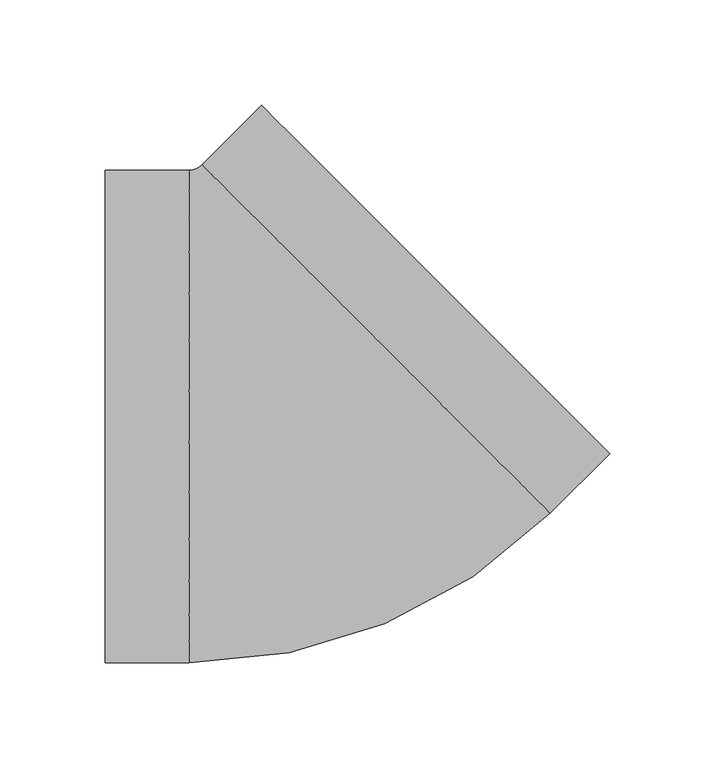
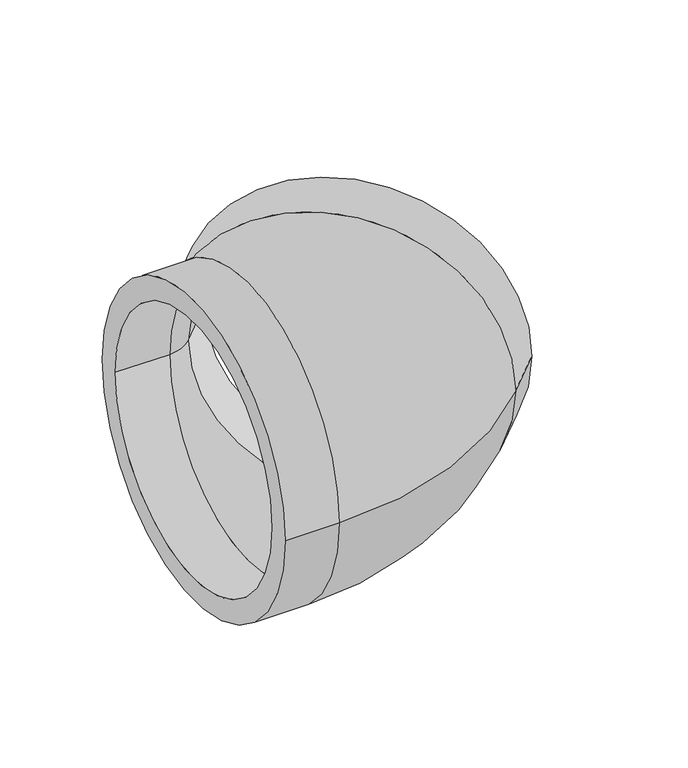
"""IFC4 building model written with IfcOpenShell, lengths in millimetres: duct fitting geometry, HEATPEX - ARIA ADURO - Kolano 45 : HEATPEX - ARIA ADURO - Kolano 45."""

import ifcopenshell
import ifcopenshell.guid

model = None  # the IFC model being written
_history = None  # IfcOwnerHistory: only IFC2X3 demands one
_inside = {}  # id of a spatial element -> (the spatial element, [elements in it])
_under = {}  # id of a project, library or spatial element -> (it, [spatial elements below it])
_declared = {}  # id of a project -> (the project, [libraries it declares])
_typed = {}  # id of a type object -> (the type object, [elements of that type])
_made_of = {}  # id of a material, layer set ... -> (it, [elements and type objects made of it])


def new_model(schema):
    """Start an empty IFC model of exactly this schema.

    Asked for "IFC4X3", IfcOpenShell would pick the latest addendum, in which some entities
    have other attributes; the version numbers below select the first issue.
    IFC2X3 requires an IfcOwnerHistory on every rooted entity: one is made here for all.
    """
    global model, _history
    if schema == "IFC4X3":
        model = ifcopenshell.file(schema_version=(4, 3, 0, 0))
    else:
        model = ifcopenshell.file(schema=schema)
    _inside.clear()
    _under.clear()
    _declared.clear()
    _typed.clear()
    _made_of.clear()
    _history = None
    if model.schema == "IFC2X3":
        org = make("IfcOrganization", Name="unknown")
        user = make(
            "IfcPersonAndOrganization",
            ThePerson=make("IfcPerson", FamilyName="unknown"),
            TheOrganization=org,
        )
        app = make(
            "IfcApplication",
            ApplicationDeveloper=org,
            Version="unknown",
            ApplicationFullName="unknown",
            ApplicationIdentifier="unknown",
        )
        _history = make(
            "IfcOwnerHistory",
            OwningUser=user,
            OwningApplication=app,
            ChangeAction="ADDED",
            CreationDate=0,
        )
    return model


def make(cls, **values):
    """One entity of the class cls with the attributes given. An attribute that is None is left unset."""
    return model.create_entity(
        cls, **{name: value for name, value in values.items() if value is not None}
    )


def rooted(cls, **values):
    """An entity with a GlobalId (a new one), such as an element, a storey or a relation."""
    return make(cls, GlobalId=ifcopenshell.guid.new(), OwnerHistory=_history, **values)


def si_unit(unit_type, name, prefix=None):
    """IfcSIUnit, for example si_unit("LENGTHUNIT", "METRE", prefix="MILLI")."""
    return make("IfcSIUnit", UnitType=unit_type, Prefix=prefix, Name=name)


def assignment(units):
    """IfcUnitAssignment: the units of a project."""
    return None if units is None else make("IfcUnitAssignment", Units=units)


def point(xyz):
    """IfcCartesianPoint."""
    return None if xyz is None else make("IfcCartesianPoint", Coordinates=xyz)


def direction(xyz):
    """IfcDirection."""
    return None if xyz is None else make("IfcDirection", DirectionRatios=xyz)


def frame(location, z_axis=None, x_axis=None):
    """IfcAxis2Placement3D, a coordinate frame: its origin and axes. An axis left out is left unset."""
    return make(
        "IfcAxis2Placement3D",
        Location=point(location),
        Axis=direction(z_axis),
        RefDirection=direction(x_axis),
    )


def origin():
    """The frame at (0, 0, 0) with its axes left unset."""
    return frame((0.0, 0.0, 0.0))


def place(relative_to, where):
    """IfcLocalPlacement: puts the frame where relative to a parent placement (None: the world)."""
    return make(
        "IfcLocalPlacement", PlacementRelTo=relative_to, RelativePlacement=where
    )


def context(
    kind, dimensions, precision=None, world=None, true_north=None, identifier=None
):
    """IfcGeometricRepresentationContext, for example the 3D "Model" context."""
    return make(
        "IfcGeometricRepresentationContext",
        ContextIdentifier=identifier,
        ContextType=kind,
        CoordinateSpaceDimension=dimensions,
        Precision=precision,
        WorldCoordinateSystem=world,
        TrueNorth=true_north,
    )


def project(units=None, contexts=None):
    """IfcProject with its units and contexts."""
    return rooted(
        "IfcProject",
        Name="project",
        RepresentationContexts=contexts,
        UnitsInContext=assignment(units),
    )


def spatial(cls, under=None, at=None, **own):
    """A site, building, storey or space (cls), placed at a placement, below another one or the project."""
    s = rooted(cls, ObjectPlacement=at, **own)
    if under is not None:
        _under.setdefault(under.id(), (under, []))[1].append(s)
    return s


def polyline(points):
    """IfcPolyline through the points."""
    return make("IfcPolyline", Points=[point(p) for p in points])


def circle_curve(where, radius):
    """IfcCircle in the frame where."""
    return make("IfcCircle", Position=where, Radius=radius)


def ellipse_curve(where, semi_axis1, semi_axis2):
    """IfcEllipse in the frame where."""
    return make(
        "IfcEllipse", Position=where, SemiAxis1=semi_axis1, SemiAxis2=semi_axis2
    )


def trimmed(basis, trim1, trim2, sense, master):
    """IfcTrimmedCurve: the piece of a basis curve between two trims."""
    return make(
        "IfcTrimmedCurve",
        BasisCurve=basis,
        Trim1=trim1,
        Trim2=trim2,
        SenseAgreement=sense,
        MasterRepresentation=master,
    )


def shape(context_of_items, identifier, shape_type, items):
    """IfcShapeRepresentation: the items that make up one representation, for example the "Body"."""
    return make(
        "IfcShapeRepresentation",
        ContextOfItems=context_of_items,
        RepresentationIdentifier=identifier,
        RepresentationType=shape_type,
        Items=items,
    )


def source(mapping_origin, context_of_items, identifier, shape_type, items):
    """IfcRepresentationMap: a shape defined once, which mapped items show again and again."""
    return make(
        "IfcRepresentationMap",
        MappingOrigin=mapping_origin,
        MappedRepresentation=shape(context_of_items, identifier, shape_type, items),
    )


def transform(
    local_origin,
    x_axis=None,
    y_axis=None,
    z_axis=None,
    scale=None,
    scale2=None,
    scale3=None,
    uniform=True,
):
    """IfcCartesianTransformationOperator3D, or its non-uniform kind. x_axis, y_axis, z_axis: its Axis1, 2, 3."""
    if uniform:
        return make(
            "IfcCartesianTransformationOperator3D",
            Axis1=direction(x_axis),
            Axis2=direction(y_axis),
            LocalOrigin=point(local_origin),
            Scale=scale,
            Axis3=direction(z_axis),
        )
    return make(
        "IfcCartesianTransformationOperator3DnonUniform",
        Axis1=direction(x_axis),
        Axis2=direction(y_axis),
        LocalOrigin=point(local_origin),
        Scale=scale,
        Axis3=direction(z_axis),
        Scale2=scale2,
        Scale3=scale3,
    )


def mapped(mapping_source, mapping_target):
    """IfcMappedItem: shows the shape of a source again, moved by a transform."""
    return make(
        "IfcMappedItem", MappingSource=mapping_source, MappingTarget=mapping_target
    )


def made_of(thing, what):
    """Note that an element or type object is made of a material, layer set ...; save() writes the relation."""
    if what is not None:
        _made_of.setdefault(what.id(), (what, []))[1].append(thing)
    return thing


def element(
    cls,
    number,
    at=None,
    inside=None,
    cuts=None,
    type_object=None,
    material=None,
    context=None,
    identifier="Body",
    shape_type=None,
    held_by="IfcProductDefinitionShape",
    body=None,
    shapes=None,
    **own,
):
    """One element of the class cls, such as IfcWall. Its Tag is "e" and its number.

    at: its placement. inside: the storey or other place that contains it. cuts: it is an
    opening in that element (IfcRelVoidsElement). A single representation is given by context,
    identifier, shape_type and body (its items); several are given by shapes. held_by: the class
    of the entity that holds the representations. save() writes the other relations.
    """
    e = rooted(cls, Tag="e%d" % number, ObjectPlacement=at, **own)
    if body is not None:
        shapes = [shape(context, identifier, shape_type, body)]
    if shapes is not None:
        e.Representation = make(held_by, Representations=shapes)
    if inside is not None:
        _inside.setdefault(inside.id(), (inside, []))[1].append(e)
    if cuts is not None:
        rooted(
            "IfcRelVoidsElement", RelatingBuildingElement=cuts, RelatedOpeningElement=e
        )
    if type_object is not None:
        _typed.setdefault(type_object.id(), (type_object, []))[1].append(e)
    return made_of(e, material)


def aggregate(whole, parts):
    """IfcRelAggregates: a whole, such as a stair, and the parts it consists of."""
    return rooted("IfcRelAggregates", RelatingObject=whole, RelatedObjects=parts)


def save(model, path):
    """Write the relations noted so far, then the file.

    IfcRelAggregates (storeys below a building ...), IfcRelContainedInSpatialStructure (elements
    in a storey), IfcRelDefinesByType, IfcRelAssociatesMaterial and IfcRelDeclares: one each for
    every whole, place, type object, material and project.
    """
    for whole, parts in _under.values():
        aggregate(whole, parts)
    for where, things in _inside.values():
        rooted(
            "IfcRelContainedInSpatialStructure",
            RelatedElements=things,
            RelatingStructure=where,
        )
    for kind, things in _typed.values():
        rooted("IfcRelDefinesByType", RelatedObjects=things, RelatingType=kind)
    for what, things in _made_of.values():
        rooted("IfcRelAssociatesMaterial", RelatedObjects=things, RelatingMaterial=what)
    for by, libraries in _declared.values():
        rooted("IfcRelDeclares", RelatingContext=by, RelatedDefinitions=libraries)
    model.write(path)


def plane_surface(at):
    """IfcPlane: the flat surface through the origin of the frame at, square to its z axis."""
    return make("IfcPlane", Position=at)


def cylinder_surface(at, radius):
    """IfcCylindricalSurface: all points at the distance radius from the z axis of the frame at."""
    return make("IfcCylindricalSurface", Position=at, Radius=radius)


def revolved_surface(curve, axis_point, axis_direction):
    """IfcSurfaceOfRevolution: the curve turned about the line through axis_point along axis_direction."""
    return make(
        "IfcSurfaceOfRevolution",
        SweptCurve=make("IfcArbitraryOpenProfileDef", ProfileType="CURVE", Curve=curve),
        AxisPosition=make("IfcAxis1Placement", Location=point(axis_point), Axis=direction(axis_direction)),
    )


def advanced_brep(points, edges, surfaces, faces):
    """IfcAdvancedBrep: a solid bounded by faces that lie on surfaces and meet in shared edges.

    An edge is (start, end): straight between two places in points (the first is 0);
    or (start, end, curve); or (start, end, curve, False) where it runs against its curve.
    A face is (place in surfaces, loops), or (place, loops, False) where it looks against
    its surface's normal. A loop lists edges by number (the first is 1), with a minus sign
    where the edge is run from its end to its start. The first loop is the outer one.
    """
    corners = [point(p) for p in points]
    vertices = [make("IfcVertexPoint", VertexGeometry=c) for c in corners]
    made = []
    for start, end, *more in edges:
        made.append(
            make(
                "IfcEdgeCurve",
                EdgeStart=vertices[start],
                EdgeEnd=vertices[end],
                EdgeGeometry=more[0] if more else make("IfcPolyline", Points=[corners[start], corners[end]]),
                SameSense=more[1] if len(more) > 1 else True,
            )
        )
    hull = []
    for where, loops, *sense in faces:
        bounds = []
        for j, loop in enumerate(loops):
            ring = [make("IfcOrientedEdge", EdgeElement=made[abs(k) - 1], Orientation=k > 0) for k in loop]
            bounds.append(
                make(
                    "IfcFaceOuterBound" if j == 0 else "IfcFaceBound",
                    Bound=make("IfcEdgeLoop", EdgeList=ring),
                    Orientation=True,
                )
            )
        hull.append(make("IfcAdvancedFace", Bounds=bounds, FaceSurface=surfaces[where], SameSense=sense[0] if sense else True))
    return make("IfcAdvancedBrep", Outer=make("IfcClosedShell", CfsFaces=hull))


def duct_fitting_def6fac4(model_context):
    return source(origin(), model_context, "Body", "AdvancedBrep", [
        advanced_brep(
        [(-92.0, -117.0, 0.0), (-92.0, 117.0, 0.0), (-92.0, -100.0, 0.0), (-92.0, 100.0, 0.0), (-52.0, -100.0, 0.0), (-52.0, 100.0, 0.0), (-52.0, -117.0, 0.0), (-52.0, 117.0, 0.0), (-33.9411255, 107.4802307, 0.0), (107.4802307, -33.9411255, 0.0), (36.7695526, 36.7695526, -100.0), (36.7695526, 36.7695526, 100.0), (-45.9619408, 119.501046, 0.0), (119.501046, -45.9619408, 0.0), (36.7695526, 36.7695526, 117.0), (36.7695526, 36.7695526, -117.0), (147.7853173, -17.6776695, 0.0), (-17.6776695, 147.7853173, 0.0), (135.764502, -5.6568542, 0.0), (-5.6568542, 135.764502, 0.0)],
        [
            (0, 1, circle_curve(frame((-92.0, 0.0, 0.0), z_axis=(-1.0, 0.0, 0.0), x_axis=(0.0, 1.0, 0.0)), 117.0)),
            (1, 0, circle_curve(frame((-92.0, 0.0, 0.0), z_axis=(-1.0, 0.0, 0.0), x_axis=(0.0, 1.0, 0.0)), 117.0)),
            (2, 3, circle_curve(frame((-92.0, 0.0, 0.0), z_axis=(1.0, 0.0, 0.0), x_axis=(0.0, 1.0, 0.0)), 100.0)),
            (3, 2, circle_curve(frame((-92.0, 0.0, 0.0), z_axis=(1.0, 0.0, 0.0), x_axis=(0.0, 1.0, 0.0)), 100.0)),
            (2, 4),
            (4, 5, circle_curve(frame((-52.0, 0.0, 0.0), z_axis=(1.0, 0.0, 0.0), x_axis=(0.0, 1.0, 0.0)), 100.0)),
            (5, 3),
            (5, 4, circle_curve(frame((-52.0, 0.0, 0.0), z_axis=(1.0, 0.0, 0.0), x_axis=(0.0, 1.0, 0.0)), 100.0)),
            (0, 6),
            (6, 7, circle_curve(frame((-52.0, 0.0, 0.0), z_axis=(-1.0, 0.0, 0.0), x_axis=(0.0, 1.0, 0.0)), 117.0)),
            (7, 1),
            (7, 6, circle_curve(frame((-52.0, 0.0, 0.0), z_axis=(-1.0, 0.0, 0.0), x_axis=(0.0, 1.0, 0.0)), 117.0)),
            (8, 5, circle_curve(frame((-52.0, 125.5391052, 0.0), z_axis=(0.0, 0.0, -1.0), x_axis=(0.0, -1.0, 0.0)), 25.5391052)),
            (4, 9, circle_curve(frame((-52.0, 125.5391052, 0.0), z_axis=(0.0, 0.0, 1.0), x_axis=(0.0, -1.0, 0.0)), 225.5391052)),
            (9, 10, circle_curve(frame((36.7695526, 36.7695526, 0.0), z_axis=(0.7071067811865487, 0.7071067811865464, 0.0), x_axis=(-0.7071067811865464, 0.7071067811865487, 0.0)), 100.0)),
            (10, 8, circle_curve(frame((36.7695526, 36.7695526, 0.0), z_axis=(0.7071067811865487, 0.7071067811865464, 0.0), x_axis=(-0.7071067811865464, 0.7071067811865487, 0.0)), 100.0)),
            (8, 11, circle_curve(frame((36.7695526, 36.7695526, 0.0), z_axis=(0.7071067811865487, 0.7071067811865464, 0.0), x_axis=(-0.7071067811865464, 0.7071067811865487, 0.0)), 100.0)),
            (11, 9, circle_curve(frame((36.7695526, 36.7695526, 0.0), z_axis=(0.7071067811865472, 0.7071067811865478, 0.0), x_axis=(-0.7071067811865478, 0.7071067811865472, 0.0)), 100.0)),
            (12, 7, circle_curve(frame((-52.0, 125.5391052, 0.0), z_axis=(0.0, 0.0, -1.0), x_axis=(0.0, -1.0, 0.0)), 8.5391052)),
            (6, 13, circle_curve(frame((-52.0, 125.5391052, 0.0), z_axis=(0.0, 0.0, 1.0), x_axis=(0.0, -1.0, 0.0)), 242.5391052)),
            (13, 14, circle_curve(frame((36.7695526, 36.7695526, 0.0), z_axis=(-0.7071067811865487, -0.7071067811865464, 0.0), x_axis=(-0.7071067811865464, 0.7071067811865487, 0.0)), 117.0)),
            (14, 12, circle_curve(frame((36.7695526, 36.7695526, 0.0), z_axis=(-0.7071067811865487, -0.7071067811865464, 0.0), x_axis=(-0.7071067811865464, 0.7071067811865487, 0.0)), 117.0)),
            (12, 15, circle_curve(frame((36.7695526, 36.7695526, 0.0), z_axis=(-0.7071067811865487, -0.7071067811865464, 0.0), x_axis=(-0.7071067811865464, 0.7071067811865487, 0.0)), 117.0)),
            (15, 13, circle_curve(frame((36.7695526, 36.7695526, 0.0), z_axis=(-0.7071067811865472, -0.7071067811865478, 0.0), x_axis=(-0.7071067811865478, 0.7071067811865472, 0.0)), 117.0)),
            (16, 17, circle_curve(frame((65.0538239, 65.0538239, 0.0), z_axis=(0.7071067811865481, 0.7071067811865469, 0.0), x_axis=(-0.7071067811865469, 0.7071067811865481, 0.0)), 117.0)),
            (17, 16, circle_curve(frame((65.0538239, 65.0538239, 0.0), z_axis=(0.7071067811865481, 0.7071067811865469, 0.0), x_axis=(-0.7071067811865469, 0.7071067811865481, 0.0)), 117.0)),
            (18, 19, circle_curve(frame((65.0538239, 65.0538239, 0.0), z_axis=(-0.7071067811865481, -0.7071067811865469, 0.0), x_axis=(-0.7071067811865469, 0.7071067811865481, 0.0)), 100.0)),
            (19, 18, circle_curve(frame((65.0538239, 65.0538239, 0.0), z_axis=(-0.7071067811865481, -0.7071067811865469, 0.0), x_axis=(-0.7071067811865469, 0.7071067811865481, 0.0)), 100.0)),
            (19, 8),
            (9, 18),
            (17, 12),
            (13, 16),
        ],
        [
            plane_surface(frame((-92.0, 0.0, 0.0), z_axis=(-1.0, 0.0, 0.0), x_axis=(0.0, 0.0, 1.0))),
            revolved_surface(polyline([(-52.0, 100.0, 0.0), (-92.0, 100.0, 0.0)]), (-92.0, 0.0, 0.0), (1.0, 0.0, 0.0)),
            cylinder_surface(frame((-92.0, 0.0, 0.0), z_axis=(-1.0, 0.0, 0.0), x_axis=(0.0, 1.0, 0.0)), 117.0),
            revolved_surface(trimmed(ellipse_curve(frame((-52.0, 0.0, 0.0), z_axis=(1.0, 0.0, 0.0), x_axis=(0.0, 1.0, 0.0)), 100.0, 100.0), [point((-52.0, -100.0, 0.0))], [point((-52.0, 100.0, 0.0))], True, "CARTESIAN"), (-52.0, 125.5391052, 0.0), (0.0, 0.0, 1.0)),
            revolved_surface(trimmed(ellipse_curve(frame((-52.0, 0.0, 0.0), z_axis=(1.0, 0.0, 0.0), x_axis=(0.0, 1.0, 0.0)), 100.0, 100.0), [point((-52.0, 100.0, 0.0))], [point((-52.0, -100.0, 0.0))], True, "CARTESIAN"), (-52.0, 125.5391052, 0.0), (0.0, 0.0, 1.0)),
            revolved_surface(trimmed(ellipse_curve(frame((-52.0, 0.0, 0.0), z_axis=(-1.0, 0.0, 0.0), x_axis=(0.0, 1.0, 0.0)), 117.0, 117.0), [point((-52.0, -117.0, 0.0))], [point((-52.0, 117.0, 0.0))], True, "CARTESIAN"), (-52.0, 125.5391052, 0.0), (0.0, 0.0, 1.0)),
            revolved_surface(trimmed(ellipse_curve(frame((-52.0, 0.0, 0.0), z_axis=(-1.0, 0.0, 0.0), x_axis=(0.0, 1.0, 0.0)), 117.0, 117.0), [point((-52.0, 117.0, 0.0))], [point((-52.0, -117.0, 0.0))], True, "CARTESIAN"), (-52.0, 125.5391052, 0.0), (0.0, 0.0, 1.0)),
            plane_surface(frame((65.0538239, 65.0538239, 0.0), z_axis=(0.7071067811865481, 0.7071067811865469, 0.0), x_axis=(0.0, 0.0, 1.0))),
            revolved_surface(polyline([(-5.656854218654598, 135.76450201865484, 0.0), (-33.941125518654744, 107.48023071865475, 0.0)]), (36.7695526, 36.7695526, 0.0), (0.7071067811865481, 0.7071067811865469, 0.0)),
            revolved_surface(polyline([(-5.656854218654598, 135.76450201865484, 0.0), (-33.94112551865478, 107.48023071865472, 0.0)]), (36.7695526, 36.7695526, 0.0), (0.7071067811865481, 0.7071067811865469, 0.0)),
            cylinder_surface(frame((36.7695526, 36.7695526, 0.0), z_axis=(-0.7071067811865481, -0.7071067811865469, 0.0), x_axis=(-0.7071067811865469, 0.7071067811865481, 0.0)), 117.0),
        ],
        [
            (0, [[1, 2], [3, 4]]),
            (1, [[-3, 5, 6, 7]]),
            (1, [[-4, -7, 8, -5]]),
            (2, [[-1, 9, 10, 11]]),
            (2, [[-2, -11, 12, -9]]),
            (3, [[13, -6, 14, 15, 16]]),
            (4, [[-13, 17, 18, -14, -8]]),
            (5, [[19, -10, 20, 21, 22]]),
            (6, [[-19, 23, 24, -20, -12]]),
            (7, [[25, 26], [27, 28]]),
            (8, [[-28, 29, -16, -15, 30]]),
            (9, [[-27, -30, -18, -17, -29]]),
            (10, [[-26, 31, -22, -21, 32]]),
            (10, [[-25, -32, -24, -23, -31]]),
        ],
    ),
    ])


if __name__ == "__main__":
    model = new_model("IFC4")
    model_context = context("Model", 3, world=origin())
    ifc_project = project(units=[si_unit("LENGTHUNIT", "METRE", prefix="MILLI")], contexts=[model_context])
    site = spatial("IfcSite", under=ifc_project)
    building = spatial("IfcBuilding", under=site)
    placement = place(None, origin())
    duct_fitting_shape = duct_fitting_def6fac4(model_context)
    element("IfcDuctFitting", 1, ObjectType="HEATPEX - ARIA ADURO - Kolano 45 : HEATPEX - ARIA ADURO - Kolano 45", at=placement, inside=building, context=model_context, shape_type="MappedRepresentation", body=[
        mapped(duct_fitting_shape, transform((0.0, 0.0, 0.0), x_axis=(1.0, 0.0, 0.0), y_axis=(0.0, 1.0, 0.0), z_axis=(0.0, 0.0, 1.0))),
    ])
    save(model, "model.ifc")
